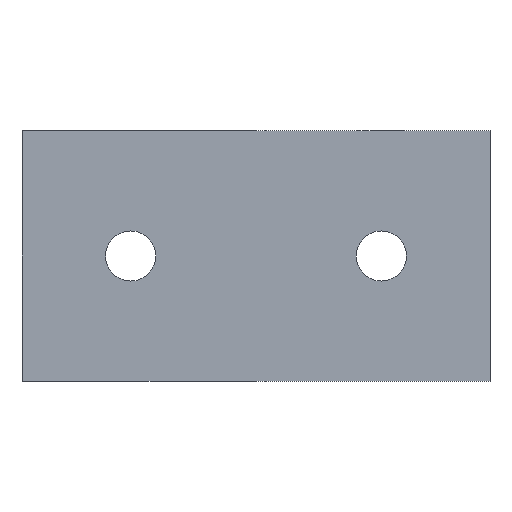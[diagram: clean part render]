
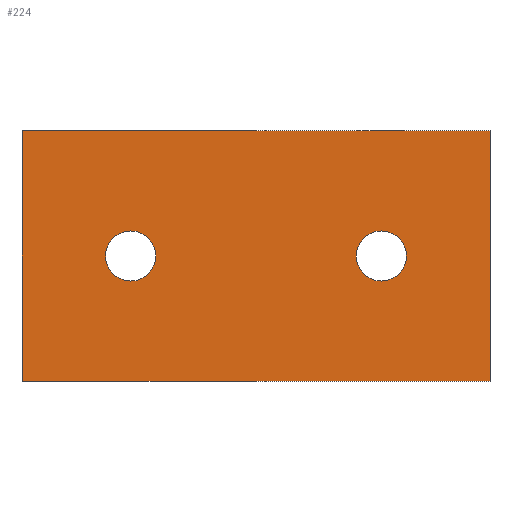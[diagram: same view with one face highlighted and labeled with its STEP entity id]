
A CAD part, front view. The second image highlights one B-rep face of the part: STEP entity #224.
In plain terms, the highlighted planar face has unit normal (0, -1, 0).
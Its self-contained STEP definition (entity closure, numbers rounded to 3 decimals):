
#19 = VERTEX_POINT ( 'NONE', #230 ) ;
#22 = VERTEX_POINT ( 'NONE', #615 ) ;
#30 = FACE_BOUND ( 'NONE', #323, .T. ) ;
#33 = CARTESIAN_POINT ( 'NONE',  ( -16.921, -5.305, 4. ) ) ;
#42 = ORIENTED_EDGE ( 'NONE', *, *, #437, .F. ) ;
#54 = VERTEX_POINT ( 'NONE', #322 ) ;
#57 = CIRCLE ( 'NONE', #293, 3. ) ;
#59 = DIRECTION ( 'NONE',  ( 1., 0., 0. ) ) ;
#60 = CARTESIAN_POINT ( 'NONE',  ( 26.079, -5.305, -14. ) ) ;
#64 = DIRECTION ( 'NONE',  ( 0., 0., -1. ) ) ;
#72 = LINE ( 'NONE', #421, #359 ) ;
#74 = VERTEX_POINT ( 'NONE', #667 ) ;
#108 = CARTESIAN_POINT ( 'NONE',  ( -16.921, -5.305, -26. ) ) ;
#113 = EDGE_CURVE ( 'NONE', #54, #308, #188, .T. ) ;
#120 = LINE ( 'NONE', #290, #281 ) ;
#136 = DIRECTION ( 'NONE',  ( 0., 0., -1. ) ) ;
#156 = AXIS2_PLACEMENT_3D ( 'NONE', #583, #306, #513 ) ;
#173 = VECTOR ( 'NONE', #211, 1000. ) ;
#179 = ORIENTED_EDGE ( 'NONE', *, *, #113, .F. ) ;
#188 = LINE ( 'NONE', #222, #606 ) ;
#206 = DIRECTION ( 'NONE',  ( 0., 0., 1. ) ) ;
#207 = EDGE_CURVE ( 'NONE', #74, #308, #454, .T. ) ;
#211 = DIRECTION ( 'NONE',  ( 0., 0., -1. ) ) ;
#218 = ORIENTED_EDGE ( 'NONE', *, *, #585, .F. ) ;
#219 = ORIENTED_EDGE ( 'NONE', *, *, #456, .F. ) ;
#222 = CARTESIAN_POINT ( 'NONE',  ( -16.921, -5.305, -26. ) ) ;
#224 = ADVANCED_FACE ( 'NONE', ( #438, #30, #299 ), #641, .F. ) ;
#230 = CARTESIAN_POINT ( 'NONE',  ( -3.921, -5.305, -8. ) ) ;
#236 = VERTEX_POINT ( 'NONE', #60 ) ;
#251 = CARTESIAN_POINT ( 'NONE',  ( -3.921, -5.305, -14. ) ) ;
#261 = DIRECTION ( 'NONE',  ( 0., -1., 0. ) ) ;
#263 = AXIS2_PLACEMENT_3D ( 'NONE', #549, #364, #136 ) ;
#266 = EDGE_CURVE ( 'NONE', #563, #54, #120, .T. ) ;
#267 = ORIENTED_EDGE ( 'NONE', *, *, #341, .F. ) ;
#272 = CARTESIAN_POINT ( 'NONE',  ( 39.079, -5.305, 4. ) ) ;
#281 = VECTOR ( 'NONE', #439, 1000. ) ;
#283 = ORIENTED_EDGE ( 'NONE', *, *, #385, .F. ) ;
#289 = ORIENTED_EDGE ( 'NONE', *, *, #207, .T. ) ;
#290 = CARTESIAN_POINT ( 'NONE',  ( 39.079, -5.305, 4. ) ) ;
#293 = AXIS2_PLACEMENT_3D ( 'NONE', #447, #664, #64 ) ;
#299 = FACE_OUTER_BOUND ( 'NONE', #363, .T. ) ;
#306 = DIRECTION ( 'NONE',  ( 0., -1., 0. ) ) ;
#308 = VERTEX_POINT ( 'NONE', #108 ) ;
#322 = CARTESIAN_POINT ( 'NONE',  ( 39.079, -5.305, -26. ) ) ;
#323 = EDGE_LOOP ( 'NONE', ( #218, #219 ) ) ;
#341 = EDGE_CURVE ( 'NONE', #74, #563, #72, .T. ) ;
#351 = DIRECTION ( 'NONE',  ( 0., 0., -1. ) ) ;
#359 = VECTOR ( 'NONE', #59, 1000. ) ;
#363 = EDGE_LOOP ( 'NONE', ( #289, #179, #490, #267 ) ) ;
#364 = DIRECTION ( 'NONE',  ( 0., -1., 0. ) ) ;
#385 = EDGE_CURVE ( 'NONE', #19, #527, #57, .T. ) ;
#421 = CARTESIAN_POINT ( 'NONE',  ( -16.921, -5.305, 4. ) ) ;
#437 = EDGE_CURVE ( 'NONE', #527, #19, #566, .T. ) ;
#438 = FACE_BOUND ( 'NONE', #582, .T. ) ;
#439 = DIRECTION ( 'NONE',  ( 0., 0., -1. ) ) ;
#445 = CIRCLE ( 'NONE', #663, 3. ) ;
#447 = CARTESIAN_POINT ( 'NONE',  ( -3.921, -5.305, -11. ) ) ;
#454 = LINE ( 'NONE', #590, #173 ) ;
#456 = EDGE_CURVE ( 'NONE', #22, #236, #445, .T. ) ;
#469 = DIRECTION ( 'NONE',  ( -1., 0., 0. ) ) ;
#490 = ORIENTED_EDGE ( 'NONE', *, *, #266, .F. ) ;
#513 = DIRECTION ( 'NONE',  ( 0., 0., -1. ) ) ;
#514 = CIRCLE ( 'NONE', #263, 3. ) ;
#522 = DIRECTION ( 'NONE',  ( 0., 1., 0. ) ) ;
#527 = VERTEX_POINT ( 'NONE', #251 ) ;
#549 = CARTESIAN_POINT ( 'NONE',  ( 26.079, -5.305, -11. ) ) ;
#563 = VERTEX_POINT ( 'NONE', #272 ) ;
#566 = CIRCLE ( 'NONE', #156, 3. ) ;
#582 = EDGE_LOOP ( 'NONE', ( #42, #283 ) ) ;
#583 = CARTESIAN_POINT ( 'NONE',  ( -3.921, -5.305, -11. ) ) ;
#585 = EDGE_CURVE ( 'NONE', #236, #22, #514, .T. ) ;
#590 = CARTESIAN_POINT ( 'NONE',  ( -16.921, -5.305, 4. ) ) ;
#606 = VECTOR ( 'NONE', #469, 1000. ) ;
#615 = CARTESIAN_POINT ( 'NONE',  ( 26.079, -5.305, -8. ) ) ;
#641 = PLANE ( 'NONE',  #643 ) ;
#643 = AXIS2_PLACEMENT_3D ( 'NONE', #33, #522, #206 ) ;
#663 = AXIS2_PLACEMENT_3D ( 'NONE', #670, #261, #351 ) ;
#664 = DIRECTION ( 'NONE',  ( 0., -1., 0. ) ) ;
#667 = CARTESIAN_POINT ( 'NONE',  ( -16.921, -5.305, 4. ) ) ;
#670 = CARTESIAN_POINT ( 'NONE',  ( 26.079, -5.305, -11. ) ) ;
